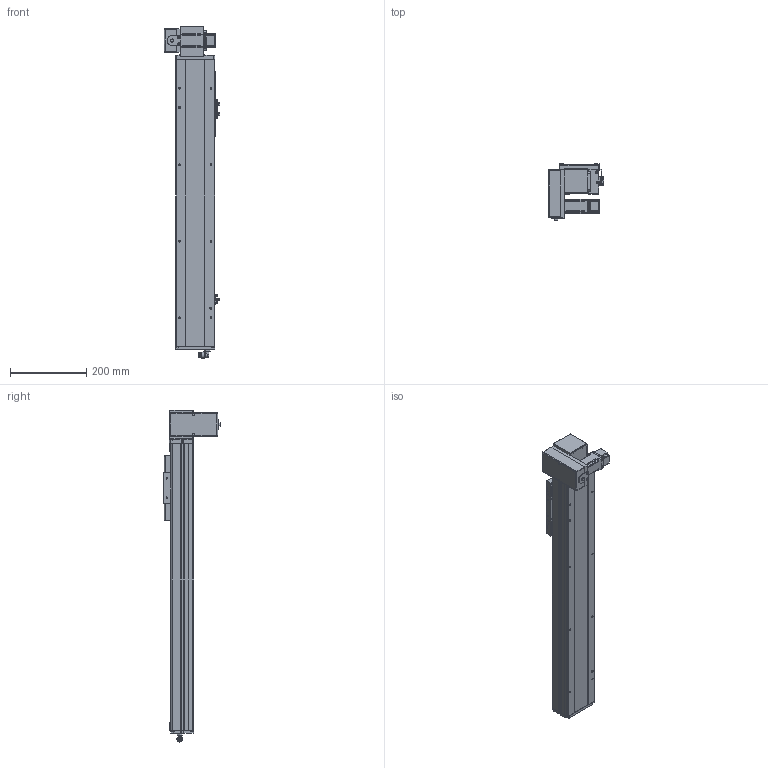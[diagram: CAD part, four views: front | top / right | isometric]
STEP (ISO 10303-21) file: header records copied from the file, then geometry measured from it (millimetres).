
FILE_DESCRIPTION (( 'STEP AP214' ), '1' );
FILE_NAME ('TPE10-L32-500-LD-T10-C4.STEP', '2023-03-13T03:43:31', ( '' ), ( '' ), 'SwSTEP 2.0', 'SolidWorks 2020', '' );
FILE_SCHEMA (( 'AUTOMOTIVE_DESIGN' ));
Length unit declared in the file: millimetre
Products named in the file (15): 葩璃 PL8-02^TPE10-L32-LD-T10-C4; 葩璃 詩湍75^TPE10-L32-LD-T10-C4; 葩璃 TPE10-007 々湍釱MZ-169x88^TPE10-L32-LD-T10-C4; hexagon socket head cap screws gb_GB_FASTENER_SCREWS_HSHCS M3X6-N; 葩璃 TPF10-L-008 耜醱啣^TPE10-L32-LD-T10-C4; 葩璃 TPE10-L-001 菁釱MZ-102A-01^TPE10-L32-LD-T10-C4; 葩璃 pm-t65-672^TPE10-L32-LD-T10-C4; 葩璃 侂狟100W^TPE10-L32-LD-T10-C4; 葩璃 TPE10-L-002 耜裔ZTMT-102B-04^TPE10-L32-LD-T10-C4; 葩璃 TPF10 詩湍揤啣 TPF10 12^TPE10-L32-LD-T10-C4; hexagon head bolts-full thread gb_GB_FASTENER_BOLT_STBAB A M5X16-N; 葩璃 TPE10 賑雄殤 TPE10^TPE10-L32-LD-T10-C4; 葩璃 TPT10-L-009 萇儂啣^TPE10-L32-LD-T10-C4_100W; hex nuts, style 1-grades ab gb_GB_FASTENER_NUT_SNAB1 M3-N; TPE10-L32-500-LD-T10-C4
Assembly tree (28 placements, depth 2):
  TPE10-L32-500-LD-T10-C4
    葩璃 TPE10-L-001 菁釱MZ-102A-01^TPE10-L32-LD-T10-C4
    葩璃 TPE10-L-002 耜裔ZTMT-102B-04^TPE10-L32-LD-T10-C4  x2
    葩璃 詩湍75^TPE10-L32-LD-T10-C4
    葩璃 TPE10-007 々湍釱MZ-169x88^TPE10-L32-LD-T10-C4
    葩璃 TPF10-L-008 耜醱啣^TPE10-L32-LD-T10-C4
    葩璃 TPE10 賑雄殤 TPE10^TPE10-L32-LD-T10-C4
    葩璃 TPF10 詩湍揤啣 TPF10 12^TPE10-L32-LD-T10-C4  x2
    葩璃 TPT10-L-009 萇儂啣^TPE10-L32-LD-T10-C4_100W
    葩璃 pm-t65-672^TPE10-L32-LD-T10-C4  x3
    葩璃 PL8-02^TPE10-L32-LD-T10-C4
    葩璃 侂狟100W^TPE10-L32-LD-T10-C4
    hexagon socket head cap screws gb_GB_FASTENER_SCREWS_HSHCS M3X6-N  x6
    hex nuts, style 1-grades ab gb_GB_FASTENER_NUT_SNAB1 M3-N  x6
    hexagon head bolts-full thread gb_GB_FASTENER_BOLT_STBAB A M5X16-N
Bounding box: 146.2 x 147.15 x 868.35 mm (x, y, z)
Volume: 2819009.7 mm3; surface area: 776107.4 mm2
Topology: 36 solids, 36 shells, 1596 faces, 4066 edges, 2574 vertices
Faces by surface type: plane 899, cylinder 477, cone 168, torus 26, bspline 24, sphere 2
Entity records: 37004 total; most frequent: CARTESIAN_POINT 7783, DIRECTION 5796, ORIENTED_EDGE 5616, EDGE_CURVE 2808, AXIS2_PLACEMENT_3D 2037, VERTEX_POINT 1801, VECTOR 1722, LINE 1722
